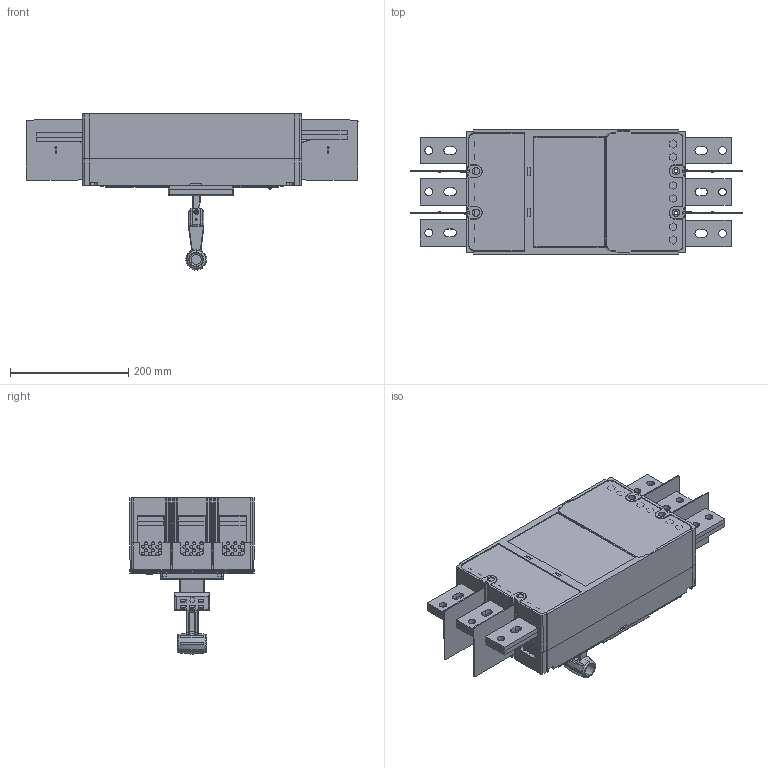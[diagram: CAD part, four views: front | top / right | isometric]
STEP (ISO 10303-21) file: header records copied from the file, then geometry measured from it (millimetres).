
FILE_DESCRIPTION((''),'2;1');
FILE_NAME('HGM1000_1250A_3P_ASM','2022-03-07T',('HHI'),(''),'PRO/ENGINEER BY PARAMETRIC TECHNOLOGY CORPORATION, 2017170','PRO/ENGINEER BY PARAMETRIC TECHNOLOGY CORPORATION, 2017170','');
FILE_SCHEMA(('CONFIG_CONTROL_DESIGN'));
Products named in the file (191): 05-04-01_GIRIS_CIKIS_UZATMA_BAR; 052300_CIKIS_HAVALANDIRMA_PENCE; Y_KSEKLIK-EKSTR_ZYON3_51_; Y_KSEKLIK-EKSTR_ZYON3_134_; Y_KSEKLIK-EKSTR_ZYON3_87_; Y_KSEKLIK-EKSTR_ZYON3_101_; Y_KSEKLIK-EKSTR_ZYON3_9_; Y_KSEKLIK-EKSTR_ZYON3_117_; Y_KSEKLIK-EKSTR_ZYON3_11_; Y_KSEKLIK-EKSTR_ZYON3_53_; Y_KSEKLIK-EKSTR_ZYON3_46_; Y_KSEKLIK-EKSTR_ZYON3_24_; Y_KSEKLIK-EKSTR_ZYON3_40_; Y_KSEKLIK-EKSTR_ZYON3_71_; Y_KSEKLIK-EKSTR_ZYON3_43_; Y_KSEKLIK-EKSTR_ZYON3_130_; Y_KSEKLIK-EKSTR_ZYON3_1_-31396; Y_KSEKLIK-EKSTR_ZYON3_92_; Y_KSEKLIK-EKSTR_ZYON3_49_; Y_KSEKLIK-EKSTR_ZYON3_52_; Y_KSEKLIK-EKSTR_ZYON3_99_; Y_KSEKLIK-EKSTR_ZYON3_133_; Y_KSEKLIK-EKSTR_ZYON3_104_; Y_KSEKLIK-EKSTR_ZYON3_26_; Y_KSEKLIK-EKSTR_ZYON3_63_; Y_KSEKLIK-EKSTR_ZYON3_119_; Y_KSEKLIK-EKSTR_ZYON3_45_; Y_KSEKLIK-EKSTR_ZYON3_4_-54582; Y_KSEKLIK-EKSTR_ZYON3_121_; Y_KSEKLIK-EKSTR_ZYON3_32_; Y_KSEKLIK-EKSTR_ZYON3_123_; Y_KSEKLIK-EKSTR_ZYON3_78_; Y_KSEKLIK-EKSTR_ZYON3_6_-61793; Y_KSEKLIK-EKSTR_ZYON3_16_; Y_KSEKLIK-EKSTR_ZYON3_21_; Y_KSEKLIK-EKSTR_ZYON3_125_; Y_KSEKLIK-EKSTR_ZYON3_5_-66981; Y_KSEKLIK-EKSTR_ZYON3_50_; Y_KSEKLIK-EKSTR_ZYON3_38_; Y_KSEKLIK-EKSTR_ZYON3_58_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
Assembly tree (208 placements, depth 4):
  HGM1000_1250A_3P_ASM
    F92E_1250A_3P_HERHANG__ASM
      05-04-01_GIRIS_CIKIS_UZATMA_BAR  x12
      052300_CIKIS_HAVALANDIRMA_PENCE  x3
      PAR_A1_HERHANG__ASM
        Y_KSEKLIK-EKSTR_ZYON3_51_
        Y_KSEKLIK-EKSTR_ZYON3_134_
        Y_KSEKLIK-EKSTR_ZYON3_87_
        Y_KSEKLIK-EKSTR_ZYON3_101_
        Y_KSEKLIK-EKSTR_ZYON3_9_
        Y_KSEKLIK-EKSTR_ZYON3_117_
        Y_KSEKLIK-EKSTR_ZYON3_11_
        Y_KSEKLIK-EKSTR_ZYON3_53_
        Y_KSEKLIK-EKSTR_ZYON3_46_
        Y_KSEKLIK-EKSTR_ZYON3_24_
        Y_KSEKLIK-EKSTR_ZYON3_40_
        Y_KSEKLIK-EKSTR_ZYON3_71_
        Y_KSEKLIK-EKSTR_ZYON3_43_
        Y_KSEKLIK-EKSTR_ZYON3_130_
        Y_KSEKLIK-EKSTR_ZYON3_1_-31396
        Y_KSEKLIK-EKSTR_ZYON3_92_
        Y_KSEKLIK-EKSTR_ZYON3_49_
        Y_KSEKLIK-EKSTR_ZYON3_52_
        Y_KSEKLIK-EKSTR_ZYON3_99_
        Y_KSEKLIK-EKSTR_ZYON3_133_
        Y_KSEKLIK-EKSTR_ZYON3_104_
        Y_KSEKLIK-EKSTR_ZYON3_26_
        Y_KSEKLIK-EKSTR_ZYON3_63_
        Y_KSEKLIK-EKSTR_ZYON3_119_
        Y_KSEKLIK-EKSTR_ZYON3_45_
        Y_KSEKLIK-EKSTR_ZYON3_4_-54582
        Y_KSEKLIK-EKSTR_ZYON3_121_
        Y_KSEKLIK-EKSTR_ZYON3_32_
        Y_KSEKLIK-EKSTR_ZYON3_123_
        Y_KSEKLIK-EKSTR_ZYON3_78_
        Y_KSEKLIK-EKSTR_ZYON3_6_-61793
        Y_KSEKLIK-EKSTR_ZYON3_16_
        Y_KSEKLIK-EKSTR_ZYON3_21_
        Y_KSEKLIK-EKSTR_ZYON3_125_
        Y_KSEKLIK-EKSTR_ZYON3_5_-66981
        Y_KSEKLIK-EKSTR_ZYON3_50_
        Y_KSEKLIK-EKSTR_ZYON3_38_
        Y_KSEKLIK-EKSTR_ZYON3_58_
        Y_KSEKLIK-EKSTR_ZYON3_13_
        Y_KSEKLIK-EKSTR_ZYON3_100_
        Y_KSEKLIK-EKSTR_ZYON3_30_
        Y_KSEKLIK-EKSTR_ZYON3_70_
        Y_KSEKLIK-EKSTR_ZYON3_120_
        Y_KSEKLIK-EKSTR_ZYON3_112_
        Y_KSEKLIK-EKSTR_ZYON3_20_
        Y_KSEKLIK-EKSTR_ZYON3_84_
        Y_KSEKLIK-EKSTR_ZYON3_44_
        Y_KSEKLIK-EKSTR_ZYON3_128_
        Y_KSEKLIK-EKSTR_ZYON3_55_
        Y_KSEKLIK-EKSTR_ZYON3_74_
        Y_KSEKLIK-EKSTR_ZYON3_12_
        Y_KSEKLIK-EKSTR_ZYON3_36_
        Y_KSEKLIK-EKSTR_ZYON3_131_
        Y_KSEKLIK-EKSTR_ZYON3_94_
        Y_KSEKLIK-EKSTR_ZYON3_111_
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Bounding box: 560.91 x 210 x 263.8 mm (x, y, z)
Volume: 9613609.2 mm3; surface area: 1195790.8 mm2
Topology: 203 solids, 203 shells, 6097 faces, 16434 edges, 10869 vertices
Faces by surface type: plane 3491, extrusion 1345, cylinder 1014, cone 119, bspline 68, torus 34, sphere 26
Entity records: 184444 total; most frequent: CARTESIAN_POINT 47105, ORIENTED_EDGE 29432, DIRECTION 23785, EDGE_CURVE 14716, VECTOR 11289, LINE 9944, VERTEX_POINT 9747, AXIS2_PLACEMENT_3D 6248
